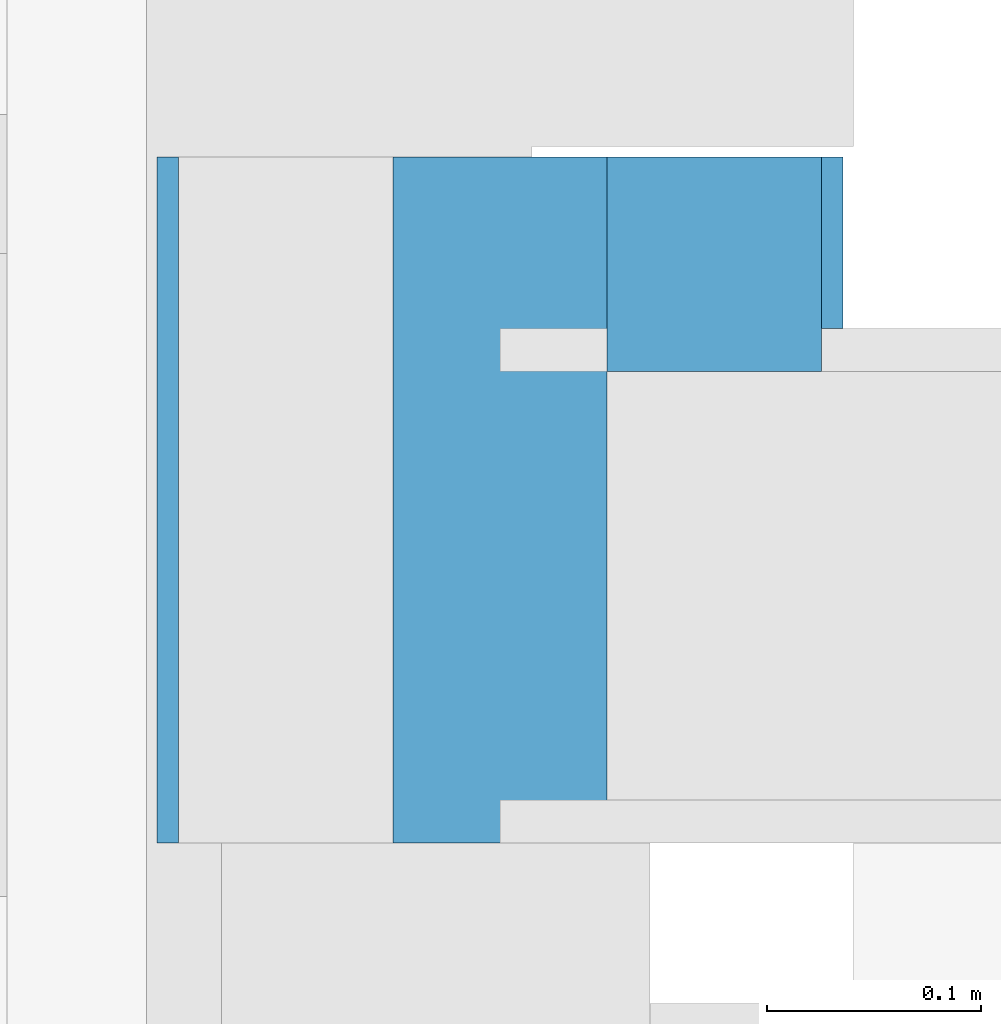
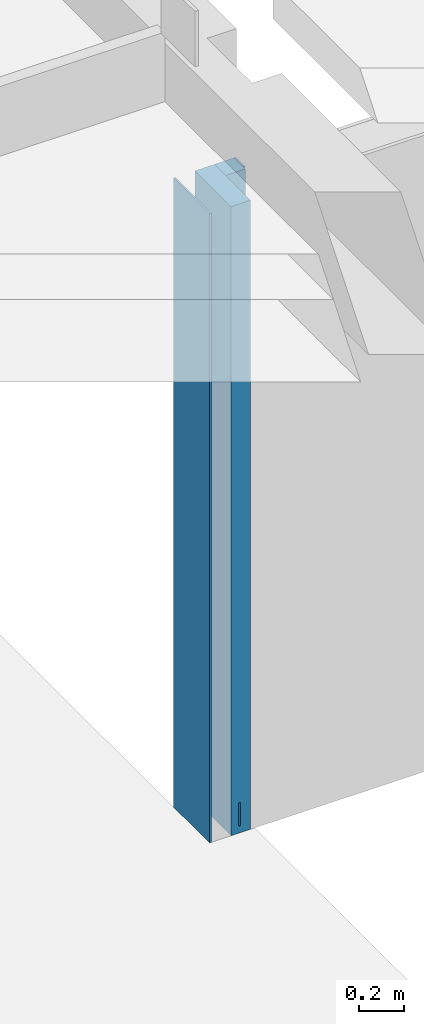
# One storey, part 65 of 99: 4 building element parts, 1 element without a shape of its own.
"""IFC2X3 building model written with IfcOpenShell, lengths in millimetres."""

import ifcopenshell
import ifcopenshell.guid

model = None  # the IFC model being written
_history = None  # IfcOwnerHistory: only IFC2X3 demands one
_inside = {}  # id of a spatial element -> (the spatial element, [elements in it])
_under = {}  # id of a project, library or spatial element -> (it, [spatial elements below it])
_declared = {}  # id of a project -> (the project, [libraries it declares])
_typed = {}  # id of a type object -> (the type object, [elements of that type])
_made_of = {}  # id of a material, layer set ... -> (it, [elements and type objects made of it])


def new_model(schema):
    """Start an empty IFC model of exactly this schema.

    Asked for "IFC4X3", IfcOpenShell would pick the latest addendum, in which some entities
    have other attributes; the version numbers below select the first issue.
    IFC2X3 requires an IfcOwnerHistory on every rooted entity: one is made here for all.
    """
    global model, _history
    if schema == "IFC4X3":
        model = ifcopenshell.file(schema_version=(4, 3, 0, 0))
    else:
        model = ifcopenshell.file(schema=schema)
    _inside.clear()
    _under.clear()
    _declared.clear()
    _typed.clear()
    _made_of.clear()
    _history = None
    if model.schema == "IFC2X3":
        org = make("IfcOrganization", Name="unknown")
        user = make(
            "IfcPersonAndOrganization",
            ThePerson=make("IfcPerson", FamilyName="unknown"),
            TheOrganization=org,
        )
        app = make(
            "IfcApplication",
            ApplicationDeveloper=org,
            Version="unknown",
            ApplicationFullName="unknown",
            ApplicationIdentifier="unknown",
        )
        _history = make(
            "IfcOwnerHistory",
            OwningUser=user,
            OwningApplication=app,
            ChangeAction="ADDED",
            CreationDate=0,
        )
    return model


def make(cls, **values):
    """One entity of the class cls with the attributes given. An attribute that is None is left unset."""
    return model.create_entity(
        cls, **{name: value for name, value in values.items() if value is not None}
    )


def entity(cls, *values):
    """Any entity or typed value of the class cls, its attributes in the order of the schema. None: left unset."""
    e = model.create_entity(cls)
    for i, value in enumerate(values):
        if value is not None:
            e[i] = value
    return e


def rooted(cls, **values):
    """An entity with a GlobalId (a new one), such as an element, a storey or a relation."""
    return make(cls, GlobalId=ifcopenshell.guid.new(), OwnerHistory=_history, **values)


def si_unit(unit_type, name, prefix=None):
    """IfcSIUnit, for example si_unit("LENGTHUNIT", "METRE", prefix="MILLI")."""
    return make("IfcSIUnit", UnitType=unit_type, Prefix=prefix, Name=name)


def converted_unit(unit_type, name, factor, base, dimensions=None, offset=None):
    """IfcConversionBasedUnit, such as the inch: factor (a typed value) times the base unit."""
    return make(
        "IfcConversionBasedUnit"
        if offset is None
        else "IfcConversionBasedUnitWithOffset",
        ConversionOffset=offset,
        Dimensions=None
        if dimensions is None
        else entity("IfcDimensionalExponents", *dimensions),
        UnitType=unit_type,
        Name=name,
        ConversionFactor=make(
            "IfcMeasureWithUnit", ValueComponent=factor, UnitComponent=base
        ),
    )


def derived_unit(unit_type, elements):
    """IfcDerivedUnit: a product of units, each with its exponent."""
    return make(
        "IfcDerivedUnit",
        Elements=[
            make("IfcDerivedUnitElement", Unit=unit, Exponent=power)
            for unit, power in elements
        ],
        UnitType=unit_type,
    )


def money_unit(currency):
    """IfcMonetaryUnit."""
    return make("IfcMonetaryUnit", Currency=currency)


def assignment(units):
    """IfcUnitAssignment: the units of a project."""
    return None if units is None else make("IfcUnitAssignment", Units=units)


def point(xyz):
    """IfcCartesianPoint."""
    return None if xyz is None else make("IfcCartesianPoint", Coordinates=xyz)


def direction(xyz):
    """IfcDirection."""
    return None if xyz is None else make("IfcDirection", DirectionRatios=xyz)


def frame(location, z_axis=None, x_axis=None):
    """IfcAxis2Placement3D, a coordinate frame: its origin and axes. An axis left out is left unset."""
    return make(
        "IfcAxis2Placement3D",
        Location=point(location),
        Axis=direction(z_axis),
        RefDirection=direction(x_axis),
    )


def origin_with_axes():
    """The frame at (0, 0, 0) with the z axis (0, 0, 1) and the x axis (1, 0, 0) written out."""
    return frame((0.0, 0.0, 0.0), z_axis=(0.0, 0.0, 1.0), x_axis=(1.0, 0.0, 0.0))


def place(relative_to, where):
    """IfcLocalPlacement: puts the frame where relative to a parent placement (None: the world)."""
    return make(
        "IfcLocalPlacement", PlacementRelTo=relative_to, RelativePlacement=where
    )


def context(
    kind, dimensions, precision=None, world=None, true_north=None, identifier=None
):
    """IfcGeometricRepresentationContext, for example the 3D "Model" context."""
    return make(
        "IfcGeometricRepresentationContext",
        ContextIdentifier=identifier,
        ContextType=kind,
        CoordinateSpaceDimension=dimensions,
        Precision=precision,
        WorldCoordinateSystem=world,
        TrueNorth=true_north,
    )


def subcontext(parent, identifier, kind, view, scale=None):
    """IfcGeometricRepresentationSubContext, for example "Body" below "Model"."""
    return make(
        "IfcGeometricRepresentationSubContext",
        ContextIdentifier=identifier,
        ContextType=kind,
        ParentContext=parent,
        TargetScale=scale,
        TargetView=view,
    )


def project(units=None, contexts=None):
    """IfcProject with its units and contexts."""
    return rooted(
        "IfcProject",
        Name="project",
        RepresentationContexts=contexts,
        UnitsInContext=assignment(units),
    )


def spatial(cls, under=None, at=None, **own):
    """A site, building, storey or space (cls), placed at a placement, below another one or the project."""
    s = rooted(cls, ObjectPlacement=at, **own)
    if under is not None:
        _under.setdefault(under.id(), (under, []))[1].append(s)
    return s


def faces_of(points, faces, orient=None, outer=None):
    """IfcFace entities. A face is a list of loops; a loop is a list of indices into points, from 0.

    orient and outer hold one flag for each loop. By default every Orientation is true, the
    first loop of a face is its IfcFaceOuterBound and the others are IfcFaceBound.
    """
    made = []
    for i, loops in enumerate(faces):
        bounds = []
        for j, loop in enumerate(loops):
            is_outer = j == 0 if outer is None else outer[i][j]
            bounds.append(
                make(
                    "IfcFaceOuterBound" if is_outer else "IfcFaceBound",
                    Bound=make("IfcPolyLoop", Polygon=[points[k] for k in loop]),
                    Orientation=True if orient is None else orient[i][j],
                )
            )
        made.append(make("IfcFace", Bounds=bounds))
    return made


def faceted_brep(points, faces, orient=None, outer=None, voids=None):
    """IfcFacetedBrep: a solid bounded by flat faces; with voids (closed shells), ...WithVoids."""
    shared = [point(p) for p in points]
    hull = make("IfcClosedShell", CfsFaces=faces_of(shared, faces, orient, outer))
    if voids is None:
        return make("IfcFacetedBrep", Outer=hull)
    return make(
        "IfcFacetedBrepWithVoids",
        Outer=hull,
        Voids=[
            make(cls, CfsFaces=faces_of(shared, fs, o, b)) for cls, fs, o, b in voids
        ],
    )


def shape(context_of_items, identifier, shape_type, items):
    """IfcShapeRepresentation: the items that make up one representation, for example the "Body"."""
    return make(
        "IfcShapeRepresentation",
        ContextOfItems=context_of_items,
        RepresentationIdentifier=identifier,
        RepresentationType=shape_type,
        Items=items,
    )


def material(Name=None, Category=None):
    """IfcMaterial."""
    return make("IfcMaterial", Name=Name, Category=Category)


def made_of(thing, what):
    """Note that an element or type object is made of a material, layer set ...; save() writes the relation."""
    if what is not None:
        _made_of.setdefault(what.id(), (what, []))[1].append(thing)
    return thing


def type_object(cls, material=None, **own):
    """A type object (cls), such as IfcWallType, which elements share."""
    return made_of(rooted(cls, **own), material)


def element(
    cls,
    number,
    at=None,
    inside=None,
    cuts=None,
    type_object=None,
    material=None,
    context=None,
    identifier="Body",
    shape_type=None,
    held_by="IfcProductDefinitionShape",
    body=None,
    shapes=None,
    **own,
):
    """One element of the class cls, such as IfcWall. Its Tag is "e" and its number.

    at: its placement. inside: the storey or other place that contains it. cuts: it is an
    opening in that element (IfcRelVoidsElement). A single representation is given by context,
    identifier, shape_type and body (its items); several are given by shapes. held_by: the class
    of the entity that holds the representations. save() writes the other relations.
    """
    e = rooted(cls, Tag="e%d" % number, ObjectPlacement=at, **own)
    if body is not None:
        shapes = [shape(context, identifier, shape_type, body)]
    if shapes is not None:
        e.Representation = make(held_by, Representations=shapes)
    if inside is not None:
        _inside.setdefault(inside.id(), (inside, []))[1].append(e)
    if cuts is not None:
        rooted(
            "IfcRelVoidsElement", RelatingBuildingElement=cuts, RelatedOpeningElement=e
        )
    if type_object is not None:
        _typed.setdefault(type_object.id(), (type_object, []))[1].append(e)
    return made_of(e, material)


def aggregate(whole, parts):
    """IfcRelAggregates: a whole, such as a stair, and the parts it consists of."""
    return rooted("IfcRelAggregates", RelatingObject=whole, RelatedObjects=parts)


def save(model, path):
    """Write the relations noted so far, then the file.

    IfcRelAggregates (storeys below a building ...), IfcRelContainedInSpatialStructure (elements
    in a storey), IfcRelDefinesByType, IfcRelAssociatesMaterial and IfcRelDeclares: one each for
    every whole, place, type object, material and project.
    """
    for whole, parts in _under.values():
        aggregate(whole, parts)
    for where, things in _inside.values():
        rooted(
            "IfcRelContainedInSpatialStructure",
            RelatedElements=things,
            RelatingStructure=where,
        )
    for kind, things in _typed.values():
        rooted("IfcRelDefinesByType", RelatedObjects=things, RelatingType=kind)
    for what, things in _made_of.values():
        rooted("IfcRelAssociatesMaterial", RelatedObjects=things, RelatingMaterial=what)
    for by, libraries in _declared.values():
        rooted("IfcRelDeclares", RelatingContext=by, RelatedDefinitions=libraries)
    model.write(path)


model = new_model("IFC2X3")

# Units and contexts
model_context = context("Model", 3, precision=0.01, world=origin_with_axes(), true_north=direction((0.0, 1.0)))
body_context = subcontext(model_context, "Body", "Model", "MODEL_VIEW")
ifc_project = project(units=[si_unit("LENGTHUNIT", "METRE", prefix="MILLI"), si_unit("AREAUNIT", "SQUARE_METRE"), si_unit("VOLUMEUNIT", "CUBIC_METRE"), converted_unit("PLANEANGLEUNIT", "DEGREE", entity("IfcPlaneAngleMeasure", 0.0174532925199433), si_unit("PLANEANGLEUNIT", "RADIAN"), dimensions=[0, 0, 0, 0, 0, 0, 0]), money_unit("EUR"), converted_unit("TIMEUNIT", "Year", entity("IfcTimeMeasure", 31557600.0), si_unit("TIMEUNIT", "SECOND"), dimensions=[0, 0, 1, 0, 0, 0, 0]), si_unit("MASSUNIT", "GRAM", prefix="KILO"), si_unit("THERMODYNAMICTEMPERATUREUNIT", "DEGREE_CELSIUS"), si_unit("LUMINOUSINTENSITYUNIT", "LUMEN"), si_unit("ENERGYUNIT", "JOULE", prefix="MEGA"), derived_unit("THERMALCONDUCTANCEUNIT", [(si_unit("POWERUNIT", "WATT"), 1), (si_unit("LENGTHUNIT", "METRE"), -1), (si_unit("THERMODYNAMICTEMPERATUREUNIT", "KELVIN"), -1)]), derived_unit("SPECIFICHEATCAPACITYUNIT", [(si_unit("ENERGYUNIT", "JOULE"), 1), (si_unit("MASSUNIT", "GRAM", prefix="KILO"), -1), (si_unit("THERMODYNAMICTEMPERATUREUNIT", "KELVIN"), -1)]), derived_unit("MASSDENSITYUNIT", [(si_unit("MASSUNIT", "GRAM", prefix="KILO"), 1), (si_unit("VOLUMEUNIT", "CUBIC_METRE"), -1)])], contexts=[model_context])

# Site, building, storey
site_placement = place(None, origin_with_axes())
site = spatial("IfcSite", under=ifc_project, at=site_placement, Name="Site", CompositionType="ELEMENT")
building_placement = place(site_placement, origin_with_axes())
building = spatial("IfcBuilding", under=site, at=building_placement, Name="Naam gebouw", CompositionType="ELEMENT")
storey_placement = place(building_placement, frame((0.0, 0.0, 7650.0), z_axis=(0.0, 0.0, 1.0), x_axis=(1.0, 0.0, 0.0)))
storey = spatial("IfcBuildingStorey", under=building, at=storey_placement, Name="2e verdieping N", CompositionType="ELEMENT", Elevation=7650.0)

# Wall, building element parts
wall_type = type_object("IfcWallType", Name="Basic Wall:21_WA_gevel V spouwmuur", PredefinedType="STANDARD")
wall_placement = place(storey_placement, frame((20371.00000006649, 27950.91242628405, -3500.0), z_axis=(0.0, 0.0, 1.0), x_axis=(-1.455191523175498e-10, 1.0, 0.0)))
wall = element("IfcWall", 1, at=wall_placement, inside=storey, type_object=wall_type, Name="Basic Wall:21_WA_gevel V spouwmuur")
ifc_material_1 = material(Name="metselwerk")
building_element_part_1_placement = place(wall_placement, origin_with_axes())
building_element_part_1 = element("IfcBuildingElementPart", 2, at=building_element_part_1_placement, material=ifc_material_1, Name="metselwerk", context=body_context, shape_type="Brep", body=[
    faceted_brep([(199.9999999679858, -50.00000003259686, 0.0), (199.9999999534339, -150.0000000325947, 0.0), (99.99999997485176, -150.0000000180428, 0.0), (99.99999999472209, -50.00000001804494, 0.0), (199.9999999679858, -50.00000003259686, 3399.999999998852), (199.9999999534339, -150.0000000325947, 3399.999999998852), (99.99999997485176, -150.0000000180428, 3399.999999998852), (99.99999999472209, -50.00000001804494, 3399.999999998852)], [[[0, 1, 2, 3]], [[0, 4, 5, 1]], [[1, 5, 6, 2]], [[3, 2, 6, 7]], [[4, 0, 3, 7]], [[5, 4, 7, 6]]]),
])
ifc_material_2 = material(Name="luchtspouw")
building_element_part_2_placement = place(wall_placement, origin_with_axes())
building_element_part_2 = element("IfcBuildingElementPart", 3, at=building_element_part_2_placement, material=ifc_material_2, Name="luchtspouw", context=body_context, shape_type="Brep", body=[
    faceted_brep([(-119.99999998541, 50.00000001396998, 3399.999999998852), (-119.99999998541, 50.00000001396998, 0.0), (-120.0000000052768, -49.99999998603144, 0.0), (-120.0000000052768, -49.99999998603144, 3399.999999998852), (-119.99999999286, 12.50000008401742, 38.19247329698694), (-119.99999999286, 12.50000008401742, 163.5788634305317), (-119.9999999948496, 2.500000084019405, 163.578863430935), (-119.9999999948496, 2.500000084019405, 38.19247329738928), (199.9999999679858, 49.99999996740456, 3399.999999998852), (199.9999999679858, 49.99999996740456, 0.0), (199.9999999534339, -50.00000003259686, 0.0), (199.9999999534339, -50.00000003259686, 3399.999999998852), (-95.32730549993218, 12.50000008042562, 19.52949719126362), (-35.00000118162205, 12.50000007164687, 99.2829695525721), (-35.00000118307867, 2.500000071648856, 99.2829695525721), (-95.32730550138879, 2.500000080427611, 19.52949719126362)], [[[0, 1, 2, 3], [4, 5, 6, 7]], [[0, 8, 9, 1]], [[1, 9, 10, 2]], [[2, 10, 11, 3]], [[3, 11, 8, 0]], [[5, 4, 12, 13]], [[6, 5, 13, 14]], [[7, 6, 14, 15]], [[4, 7, 15, 12]], [[10, 9, 8, 11]], [[15, 14, 13, 12]]]),
])
ifc_material_3 = material(Name="stucwerk")
building_element_part_3_placement = place(wall_placement, origin_with_axes())
building_element_part_3 = element("IfcBuildingElementPart", 4, at=building_element_part_3_placement, material=ifc_material_3, Name="stucwerk", context=body_context, shape_type="Brep", body=[
    faceted_brep([(199.9999999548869, 159.999999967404, 0.0), (199.9999999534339, 149.9999999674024, 0.0), (-119.9999999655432, 150.0000000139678, 0.0), (-119.9999999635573, 160.0000000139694, 0.0), (199.9999999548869, 159.999999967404, 3399.999999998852), (199.9999999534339, 149.9999999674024, 3399.999999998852), (-119.9999999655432, 150.0000000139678, 3399.999999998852), (-119.9999999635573, 160.0000000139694, 3399.999999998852)], [[[0, 1, 2, 3]], [[0, 4, 5, 1]], [[1, 5, 6, 2]], [[3, 2, 6, 7]], [[4, 0, 3, 7]], [[5, 4, 7, 6]]]),
])
building_element_part_4_placement = place(wall_placement, origin_with_axes())
building_element_part_4 = element("IfcBuildingElementPart", 5, at=building_element_part_4_placement, material=ifc_material_3, Name="stucwerk", context=body_context, shape_type="Brep", body=[
    faceted_brep([(199.9999999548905, -150.0000000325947, 0.0), (199.9999999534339, -160.0000000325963, 0.0), (119.9999999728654, -160.0000000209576, 0.0), (119.9999999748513, -150.000000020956, 0.0), (199.9999999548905, -150.0000000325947, 3399.999999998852), (199.9999999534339, -160.0000000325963, 3399.999999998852), (119.9999999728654, -160.0000000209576, 3399.999999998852), (119.9999999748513, -150.000000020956, 3399.999999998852)], [[[0, 1, 2, 3]], [[0, 4, 5, 1]], [[1, 5, 6, 2]], [[3, 2, 6, 7]], [[4, 0, 3, 7]], [[5, 4, 7, 6]]]),
])
aggregate(wall, [building_element_part_1, building_element_part_2, building_element_part_3, building_element_part_4])

save(model, "model.ifc")
